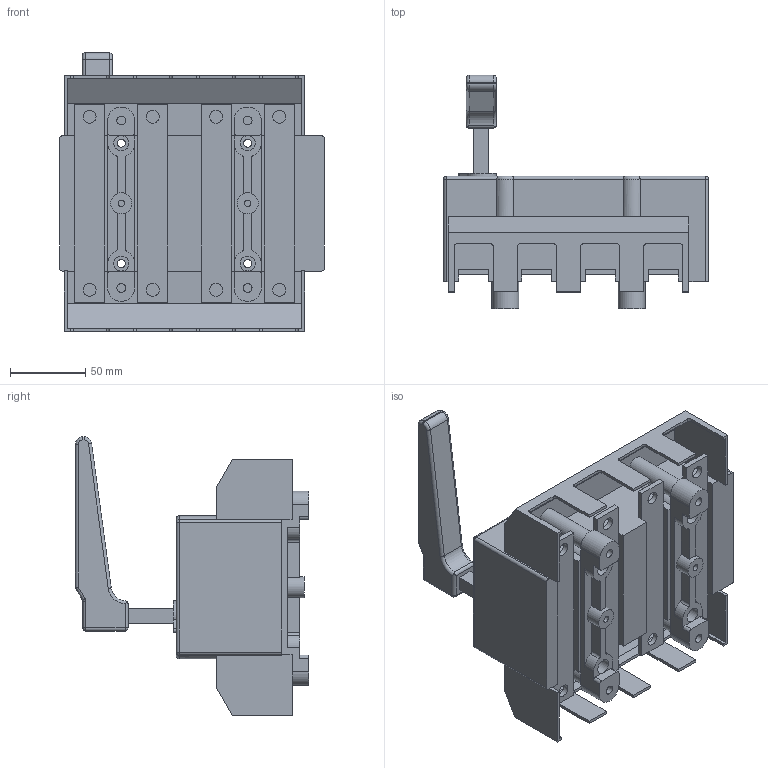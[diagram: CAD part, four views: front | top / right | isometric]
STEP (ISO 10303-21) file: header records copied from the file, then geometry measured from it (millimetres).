
FILE_DESCRIPTION(/* description */ (''),/* implementation_level */ '2;1');
FILE_NAME(/* name */ 'RA250 P3 N-R z oslona zaciskow.stp',/* time_stamp */ '2021-08-18T07:42:09+02:00',/* author */ (''),/* organization */ (''),/* preprocessor_version */ 'ST-DEVELOPER v18.1',/* originating_system */ 'SIEMENS PLM Software NX 1965',/* authorisation */ '');
FILE_SCHEMA (('AUTOMOTIVE_DESIGN { 1 0 10303 214 3 1 1 1 }'));
Length unit declared in the file: millimetre
Products named in the file (1): RA250 P3 N-R z oslona zaciskow
Bounding box: 176 x 155 x 184.9 mm (x, y, z)
Volume: 1255758.4 mm3; surface area: 169603.5 mm2
Topology: 1 solids, 1 shells, 338 faces, 955 edges, 616 vertices
Faces by surface type: plane 186, cylinder 130, torus 12, sphere 10
Full cylindrical faces by diameter (mm): 4.3 x2, 5.3 x4, 5.8 x4, 8.5 x8, 10 x12, 13 x4, 14 x2
Entity records: 10720 total; most frequent: CARTESIAN_POINT 1982, DIRECTION 1829, ORIENTED_EDGE 1762, EDGE_CURVE 881, AXIS2_PLACEMENT_3D 623, LINE 583, VECTOR 583, VERTEX_POINT 580
